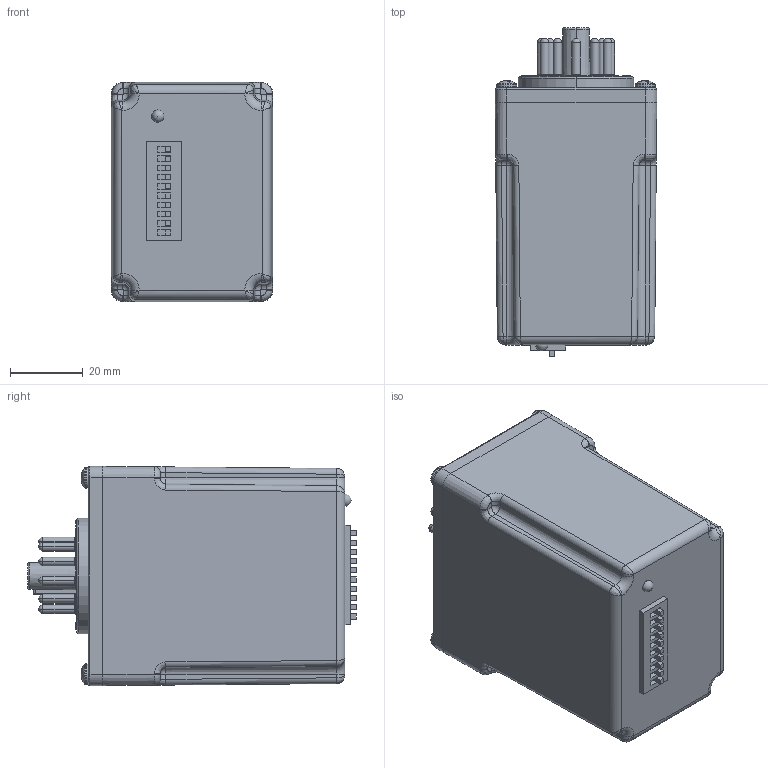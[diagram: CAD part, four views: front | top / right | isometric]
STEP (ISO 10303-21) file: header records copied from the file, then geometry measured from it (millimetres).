
FILE_DESCRIPTION(('FreeCAD Model'),'2;1');
FILE_NAME('Open CASCADE Shape Model','2023-06-06T13:38:29',(''),(''), 'Open CASCADE STEP processor 7.6','FreeCAD','Unknown');
FILE_SCHEMA(('AUTOMOTIVE_DESIGN { 1 0 10303 214 1 1 1 1 }'));
Products named in the file (1): Compound001
Bounding box: 44.45 x 90.37 x 60.33 mm (x, y, z)
Surface area: 45346.3 mm2 (no closed solid volume)
Topology: 0 solids, 33 shells, 2040 faces, 4999 edges, 3102 vertices
Faces by surface type: plane 701, cylinder 528, bspline 326, torus 282, revolution 140, cone 60, sphere 3
Entity records: 192686 total; most frequent: CARTESIAN_POINT 97499, DIRECTION 15927, ORIENTED_EDGE 9960, PCURVE 9960, DEFINITIONAL_REPRESENTATION 9960, LINE 9516, VECTOR 9516, EDGE_CURVE 4988
